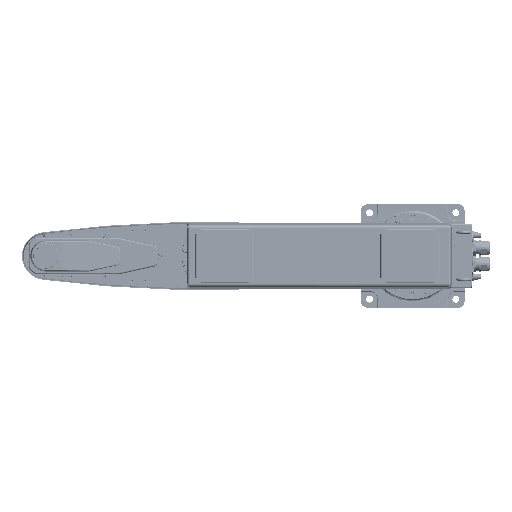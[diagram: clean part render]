
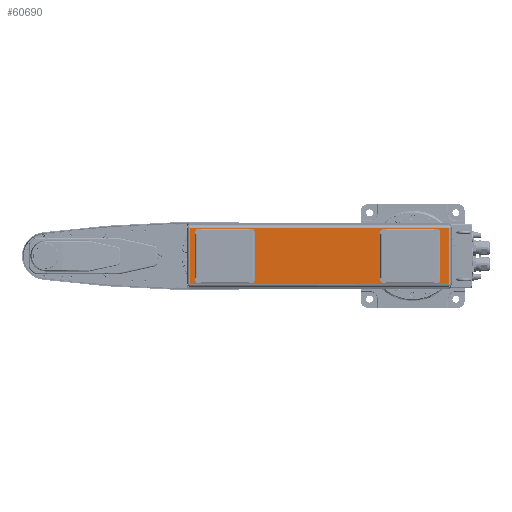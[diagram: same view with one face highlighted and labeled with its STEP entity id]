
A CAD part, front view. The second image highlights one B-rep face of the part: STEP entity #60690.
In plain terms, the highlighted planar face has unit normal (0, -1, 0).
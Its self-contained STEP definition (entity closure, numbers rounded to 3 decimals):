
#41003=DIRECTION('',(-1.,0.,0.));
#41004=VECTOR('',#41003,599.818);
#41005=CARTESIAN_POINT('',(82.909,-460.5,
64.195));
#41006=LINE('',#41005,#41004);
#41019=CARTESIAN_POINT('',(-516.909,-460.5,
64.195));
#41432=DIRECTION('',(1.,0.,0.));
#41433=VECTOR('',#41432,599.818);
#41434=CARTESIAN_POINT('',(-516.909,-460.5,
-64.195));
#41435=LINE('',#41434,#41433);
#41448=CARTESIAN_POINT('',(82.909,-460.5,
-64.195));
#41538=DIRECTION('',(0.,0.,1.));
#41539=VECTOR('',#41538,128.39);
#41540=CARTESIAN_POINT('',(82.909,-460.5,
-64.195));
#41541=LINE('',#41540,#41539);
#41542=DIRECTION('',(0.,0.,-1.));
#41543=VECTOR('',#41542,128.39);
#41544=CARTESIAN_POINT('',(-516.909,-460.5,
64.195));
#41545=LINE('',#41544,#41543);
#41546=DIRECTION('',(-1.,0.,0.));
#41547=VECTOR('',#41546,122.);
#41548=CARTESIAN_POINT('',(55.,-460.5,-63.5));
#41549=LINE('',#41548,#41547);
#41550=CARTESIAN_POINT('',(55.,-460.5,-55.5));
#41551=DIRECTION('',(0.,1.,0.));
#41552=DIRECTION('',(1.,0.,0.));
#41553=AXIS2_PLACEMENT_3D('',#41550,#41551,#41552);
#41555=DIRECTION('',(0.,0.,-1.));
#41556=VECTOR('',#41555,111.);
#41557=CARTESIAN_POINT('',(63.,-460.5,55.5));
#41558=LINE('',#41557,#41556);
#41559=CARTESIAN_POINT('',(55.,-460.5,55.5));
#41560=DIRECTION('',(0.,1.,0.));
#41561=DIRECTION('',(0.,0.,1.));
#41562=AXIS2_PLACEMENT_3D('',#41559,#41560,#41561);
#41564=DIRECTION('',(1.,0.,0.));
#41565=VECTOR('',#41564,122.);
#41566=CARTESIAN_POINT('',(-67.,-460.5,63.5));
#41567=LINE('',#41566,#41565);
#41568=CARTESIAN_POINT('',(-67.,-460.5,55.5));
#41569=DIRECTION('',(0.,1.,0.));
#41570=DIRECTION('',(-1.,0.,0.));
#41571=AXIS2_PLACEMENT_3D('',#41568,#41569,#41570);
#41573=DIRECTION('',(0.,0.,1.));
#41574=VECTOR('',#41573,111.);
#41575=CARTESIAN_POINT('',(-75.,-460.5,-55.5));
#41576=LINE('',#41575,#41574);
#41577=CARTESIAN_POINT('',(-67.,-460.5,-55.5));
#41578=DIRECTION('',(0.,1.,0.));
#41579=DIRECTION('',(0.,0.,-1.));
#41580=AXIS2_PLACEMENT_3D('',#41577,#41578,#41579);
#41582=DIRECTION('',(-1.,0.,0.));
#41583=VECTOR('',#41582,122.);
#41584=CARTESIAN_POINT('',(-374.,-460.5,-63.5));
#41585=LINE('',#41584,#41583);
#41586=CARTESIAN_POINT('',(-374.,-460.5,-55.5));
#41587=DIRECTION('',(0.,1.,0.));
#41588=DIRECTION('',(1.,0.,0.));
#41589=AXIS2_PLACEMENT_3D('',#41586,#41587,#41588);
#41591=DIRECTION('',(0.,0.,-1.));
#41592=VECTOR('',#41591,111.);
#41593=CARTESIAN_POINT('',(-366.,-460.5,55.5));
#41594=LINE('',#41593,#41592);
#41595=CARTESIAN_POINT('',(-374.,-460.5,55.5));
#41596=DIRECTION('',(0.,1.,0.));
#41597=DIRECTION('',(0.,0.,1.));
#41598=AXIS2_PLACEMENT_3D('',#41595,#41596,#41597);
#41600=DIRECTION('',(1.,0.,0.));
#41601=VECTOR('',#41600,122.);
#41602=CARTESIAN_POINT('',(-496.,-460.5,63.5));
#41603=LINE('',#41602,#41601);
#41604=CARTESIAN_POINT('',(-496.,-460.5,55.5));
#41605=DIRECTION('',(0.,1.,0.));
#41606=DIRECTION('',(-1.,0.,0.));
#41607=AXIS2_PLACEMENT_3D('',#41604,#41605,#41606);
#41609=DIRECTION('',(0.,0.,1.));
#41610=VECTOR('',#41609,111.);
#41611=CARTESIAN_POINT('',(-504.,-460.5,-55.5));
#41612=LINE('',#41611,#41610);
#41613=CARTESIAN_POINT('',(-496.,-460.5,-55.5));
#41614=DIRECTION('',(0.,1.,0.));
#41615=DIRECTION('',(0.,0.,-1.));
#41616=AXIS2_PLACEMENT_3D('',#41613,#41614,#41615);
#58286=VERTEX_POINT('',#41019);
#58289=CARTESIAN_POINT('',(-516.909,-460.5,
-64.195));
#58290=VERTEX_POINT('',#58289);
#58972=VERTEX_POINT('',#41448);
#58975=CARTESIAN_POINT('',(82.909,-460.5,
64.195));
#58976=VERTEX_POINT('',#58975);
#59621=CARTESIAN_POINT('',(55.,-460.5,-63.5));
#59622=CARTESIAN_POINT('',(-67.,-460.5,-63.5));
#59623=VERTEX_POINT('',#59621);
#59624=VERTEX_POINT('',#59622);
#59625=CARTESIAN_POINT('',(-75.,-460.5,-55.5));
#59626=VERTEX_POINT('',#59625);
#59627=CARTESIAN_POINT('',(-75.,-460.5,55.5));
#59628=CARTESIAN_POINT('',(-67.,-460.5,63.5));
#59629=VERTEX_POINT('',#59627);
#59630=VERTEX_POINT('',#59628);
#59631=CARTESIAN_POINT('',(55.,-460.5,63.5));
#59632=VERTEX_POINT('',#59631);
#59633=CARTESIAN_POINT('',(63.,-460.5,55.5));
#59634=VERTEX_POINT('',#59633);
#59635=CARTESIAN_POINT('',(63.,-460.5,-55.5));
#59636=VERTEX_POINT('',#59635);
#59877=CARTESIAN_POINT('',(-374.,-460.5,-63.5));
#59878=CARTESIAN_POINT('',(-496.,-460.5,-63.5));
#59879=VERTEX_POINT('',#59877);
#59880=VERTEX_POINT('',#59878);
#59881=CARTESIAN_POINT('',(-504.,-460.5,-55.5));
#59882=VERTEX_POINT('',#59881);
#59883=CARTESIAN_POINT('',(-504.,-460.5,55.5));
#59884=CARTESIAN_POINT('',(-496.,-460.5,63.5));
#59885=VERTEX_POINT('',#59883);
#59886=VERTEX_POINT('',#59884);
#59887=CARTESIAN_POINT('',(-374.,-460.5,63.5));
#59888=VERTEX_POINT('',#59887);
#59889=CARTESIAN_POINT('',(-366.,-460.5,55.5));
#59890=VERTEX_POINT('',#59889);
#59891=CARTESIAN_POINT('',(-366.,-460.5,-55.5));
#59892=VERTEX_POINT('',#59891);
#60641=CARTESIAN_POINT('',(78.,-460.5,-71.));
#60642=DIRECTION('',(0.,-1.,0.));
#60643=DIRECTION('',(0.,0.,1.));
#60644=AXIS2_PLACEMENT_3D('',#60641,#60642,#60643);
#60645=PLANE('',#60644);
#60646=ORIENTED_EDGE('',*,*,#60354,.F.);
#60648=ORIENTED_EDGE('',*,*,#60647,.F.);
#60649=ORIENTED_EDGE('',*,*,#60616,.F.);
#60651=ORIENTED_EDGE('',*,*,#60650,.F.);
#60652=EDGE_LOOP('',(#60646,#60648,#60649,#60651));
#60653=FACE_OUTER_BOUND('',#60652,.F.);
#60655=ORIENTED_EDGE('',*,*,#60654,.F.);
#60657=ORIENTED_EDGE('',*,*,#60656,.F.);
#60659=ORIENTED_EDGE('',*,*,#60658,.F.);
#60661=ORIENTED_EDGE('',*,*,#60660,.F.);
#60663=ORIENTED_EDGE('',*,*,#60662,.F.);
#60665=ORIENTED_EDGE('',*,*,#60664,.F.);
#60667=ORIENTED_EDGE('',*,*,#60666,.F.);
#60669=ORIENTED_EDGE('',*,*,#60668,.F.);
#60670=EDGE_LOOP('',(#60655,#60657,#60659,#60661,#60663,#60665,#60667,#60669));
#60671=FACE_BOUND('',#60670,.F.);
#60673=ORIENTED_EDGE('',*,*,#60672,.F.);
#60675=ORIENTED_EDGE('',*,*,#60674,.F.);
#60677=ORIENTED_EDGE('',*,*,#60676,.F.);
#60679=ORIENTED_EDGE('',*,*,#60678,.F.);
#60681=ORIENTED_EDGE('',*,*,#60680,.F.);
#60683=ORIENTED_EDGE('',*,*,#60682,.F.);
#60685=ORIENTED_EDGE('',*,*,#60684,.F.);
#60687=ORIENTED_EDGE('',*,*,#60686,.F.);
#60688=EDGE_LOOP('',(#60673,#60675,#60677,#60679,#60681,#60683,#60685,#60687));
#60689=FACE_BOUND('',#60688,.F.);
#60690=ADVANCED_FACE('',(#60653,#60671,#60689),#60645,.T.);
#41554=CIRCLE('',#41553,8.);
#41563=CIRCLE('',#41562,8.);
#41572=CIRCLE('',#41571,8.);
#41581=CIRCLE('',#41580,8.);
#41590=CIRCLE('',#41589,8.);
#41599=CIRCLE('',#41598,8.);
#41608=CIRCLE('',#41607,8.);
#41617=CIRCLE('',#41616,8.);
#60354=EDGE_CURVE('',#58976,#58286,#41006,.T.);
#60616=EDGE_CURVE('',#58290,#58972,#41435,.T.);
#60647=EDGE_CURVE('',#58972,#58976,#41541,.T.);
#60650=EDGE_CURVE('',#58286,#58290,#41545,.T.);
#60654=EDGE_CURVE('',#59623,#59624,#41549,.T.);
#60656=EDGE_CURVE('',#59636,#59623,#41554,.T.);
#60658=EDGE_CURVE('',#59634,#59636,#41558,.T.);
#60660=EDGE_CURVE('',#59632,#59634,#41563,.T.);
#60662=EDGE_CURVE('',#59630,#59632,#41567,.T.);
#60664=EDGE_CURVE('',#59629,#59630,#41572,.T.);
#60666=EDGE_CURVE('',#59626,#59629,#41576,.T.);
#60668=EDGE_CURVE('',#59624,#59626,#41581,.T.);
#60672=EDGE_CURVE('',#59879,#59880,#41585,.T.);
#60674=EDGE_CURVE('',#59892,#59879,#41590,.T.);
#60676=EDGE_CURVE('',#59890,#59892,#41594,.T.);
#60678=EDGE_CURVE('',#59888,#59890,#41599,.T.);
#60680=EDGE_CURVE('',#59886,#59888,#41603,.T.);
#60682=EDGE_CURVE('',#59885,#59886,#41608,.T.);
#60684=EDGE_CURVE('',#59882,#59885,#41612,.T.);
#60686=EDGE_CURVE('',#59880,#59882,#41617,.T.);
